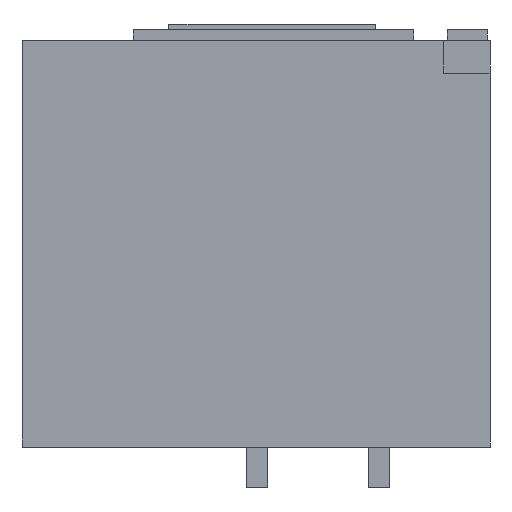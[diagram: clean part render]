
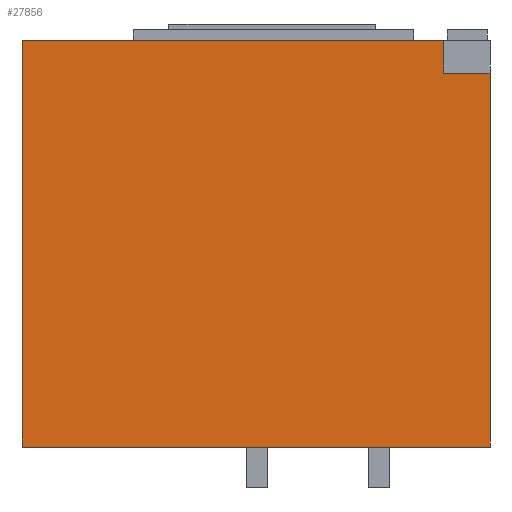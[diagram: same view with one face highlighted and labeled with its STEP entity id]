
A CAD part, left-side view. The second image highlights one B-rep face of the part: STEP entity #27856.
In plain terms, the highlighted planar face has unit normal (-1, 0, 0).
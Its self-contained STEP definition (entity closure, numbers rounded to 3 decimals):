
#1852 = AXIS2_PLACEMENT_3D ( 'NONE', #6571, #24669, #9174 ) ;
#2755 = EDGE_CURVE ( 'NONE', #9847, #24694, #17671, .T. ) ;
#3444 = VERTEX_POINT ( 'NONE', #20801 ) ;
#5369 = CARTESIAN_POINT ( 'NONE',  ( -167.5, 0., -373.5 ) ) ;
#6144 = PLANE ( 'NONE',  #1852 ) ;
#6571 = CARTESIAN_POINT ( 'NONE',  ( -167.5, 0., -373.5 ) ) ;
#6711 = CARTESIAN_POINT ( 'NONE',  ( -167.5, 42.5, -30. ) ) ;
#7653 = CARTESIAN_POINT ( 'NONE',  ( -167.5, 430., 0. ) ) ;
#8215 = ORIENTED_EDGE ( 'NONE', *, *, #32966, .F. ) ;
#8371 = DIRECTION ( 'NONE',  ( 0., -1., 0. ) ) ;
#8466 = ORIENTED_EDGE ( 'NONE', *, *, #19516, .T. ) ;
#8972 = LINE ( 'NONE', #23559, #22772 ) ;
#9174 = DIRECTION ( 'NONE',  ( 0., -1., 0. ) ) ;
#9847 = VERTEX_POINT ( 'NONE', #27372 ) ;
#10663 = DIRECTION ( 'NONE',  ( 0., -1., 0. ) ) ;
#11537 = VECTOR ( 'NONE', #14071, 1000. ) ;
#13767 = FACE_OUTER_BOUND ( 'NONE', #21698, .T. ) ;
#14071 = DIRECTION ( 'NONE',  ( 0., -1., 0. ) ) ;
#15204 = CARTESIAN_POINT ( 'NONE',  ( -167.5, 430., -373.5 ) ) ;
#15839 = DIRECTION ( 'NONE',  ( 0., 0., 1. ) ) ;
#16035 = VECTOR ( 'NONE', #8371, 1000. ) ;
#16367 = EDGE_CURVE ( 'NONE', #30051, #28079, #8972, .T. ) ;
#16656 = LINE ( 'NONE', #21227, #21919 ) ;
#17222 = EDGE_CURVE ( 'NONE', #30051, #3444, #16656, .T. ) ;
#17671 = LINE ( 'NONE', #5369, #11537 ) ;
#17838 = DIRECTION ( 'NONE',  ( 0., 0., 1. ) ) ;
#18500 = ORIENTED_EDGE ( 'NONE', *, *, #16367, .T. ) ;
#19516 = EDGE_CURVE ( 'NONE', #24694, #3444, #21092, .T. ) ;
#20801 = CARTESIAN_POINT ( 'NONE',  ( -167.5, 0., -30. ) ) ;
#20827 = CARTESIAN_POINT ( 'NONE',  ( -167.5, 0., -373.5 ) ) ;
#21092 = LINE ( 'NONE', #20827, #27070 ) ;
#21227 = CARTESIAN_POINT ( 'NONE',  ( -167.5, 430.001, -30. ) ) ;
#21287 = CARTESIAN_POINT ( 'NONE',  ( -167.5, 0., 0. ) ) ;
#21698 = EDGE_LOOP ( 'NONE', ( #26710, #8215, #29623, #8466, #26555, #18500 ) ) ;
#21919 = VECTOR ( 'NONE', #10663, 1000. ) ;
#22372 = LINE ( 'NONE', #15204, #28352 ) ;
#22635 = EDGE_CURVE ( 'NONE', #22876, #28079, #29675, .T. ) ;
#22772 = VECTOR ( 'NONE', #26109, 1000. ) ;
#22876 = VERTEX_POINT ( 'NONE', #7653 ) ;
#23559 = CARTESIAN_POINT ( 'NONE',  ( -167.5, 42.5, -373.5 ) ) ;
#24669 = DIRECTION ( 'NONE',  ( -1., 0., 0. ) ) ;
#24694 = VERTEX_POINT ( 'NONE', #32931 ) ;
#26109 = DIRECTION ( 'NONE',  ( 0., 0., 1. ) ) ;
#26555 = ORIENTED_EDGE ( 'NONE', *, *, #17222, .F. ) ;
#26710 = ORIENTED_EDGE ( 'NONE', *, *, #22635, .F. ) ;
#27070 = VECTOR ( 'NONE', #15839, 1000. ) ;
#27372 = CARTESIAN_POINT ( 'NONE',  ( -167.5, 430., -373.5 ) ) ;
#27856 = ADVANCED_FACE ( 'NONE', ( #13767 ), #6144, .T. ) ;
#28079 = VERTEX_POINT ( 'NONE', #28448 ) ;
#28352 = VECTOR ( 'NONE', #17838, 1000. ) ;
#28448 = CARTESIAN_POINT ( 'NONE',  ( -167.5, 42.5, 0. ) ) ;
#29623 = ORIENTED_EDGE ( 'NONE', *, *, #2755, .T. ) ;
#29675 = LINE ( 'NONE', #21287, #16035 ) ;
#30051 = VERTEX_POINT ( 'NONE', #6711 ) ;
#32931 = CARTESIAN_POINT ( 'NONE',  ( -167.5, 0., -373.5 ) ) ;
#32966 = EDGE_CURVE ( 'NONE', #9847, #22876, #22372, .T. ) ;
